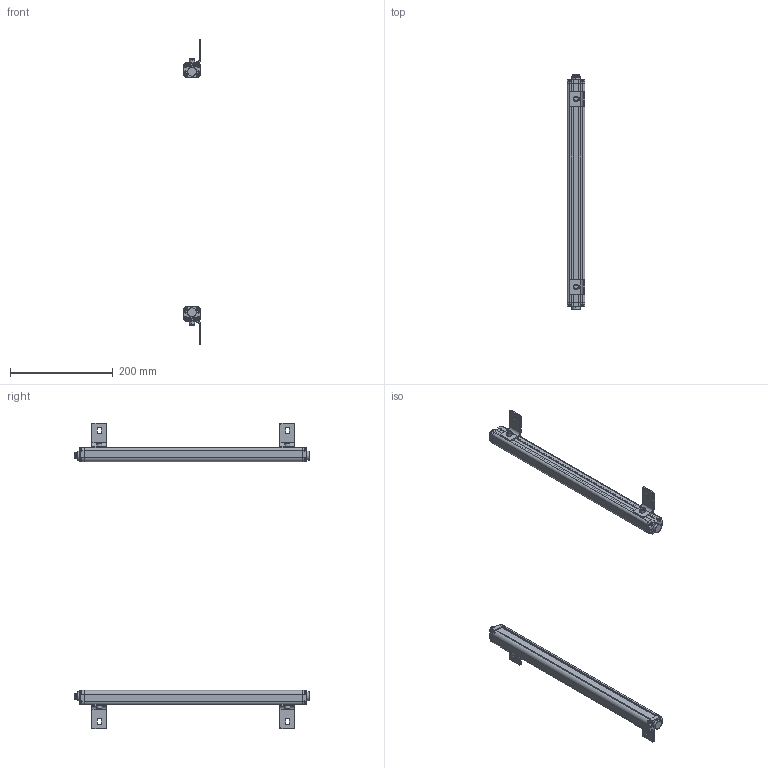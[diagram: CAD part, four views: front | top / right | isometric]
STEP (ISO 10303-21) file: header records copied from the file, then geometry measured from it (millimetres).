
FILE_DESCRIPTION (( 'STEP AP214' ), '1' );
FILE_NAME ('elg2020.STEP', '2018-03-08T11:54:15', ( '' ), ( '' ), 'SwSTEP 2.0', 'SolidWorks 2017', '' );
FILE_SCHEMA (( 'AUTOMOTIVE_DESIGN' ));
Length unit declared in the file: millimetre
Products named in the file (11): hkct1-2020; bz1-2020; elgdg03-2020; glgdg-2020; elgw-2020; lgp-2020; lx-2020; elg2020; czzj-2020; dlx-2020; hk-2020
Assembly tree (40 placements, depth 2):
  elg2020
    elgw-2020  x2
    bz1-2020  x2
    lgp-2020  x2
    glgdg-2020  x2
    elgdg03-2020  x2
    hkct1-2020  x2
    lx-2020  x16
    hk-2020  x4
    czzj-2020  x4
    dlx-2020  x4
Bounding box: 34.7 x 457.6 x 594 mm (x, y, z)
Volume: 340888.1 mm3; surface area: 353113.7 mm2
Topology: 40 solids, 40 shells, 2160 faces, 5656 edges, 3596 vertices
Faces by surface type: cylinder 1032, plane 688, bspline 440
Entity records: 143425 total; most frequent: CARTESIAN_POINT 128488, ORIENTED_EDGE 3156, DIRECTION 2810, EDGE_CURVE 1578, AXIS2_PLACEMENT_3D 1021, VERTEX_POINT 1014, VECTOR 768, LINE 768
